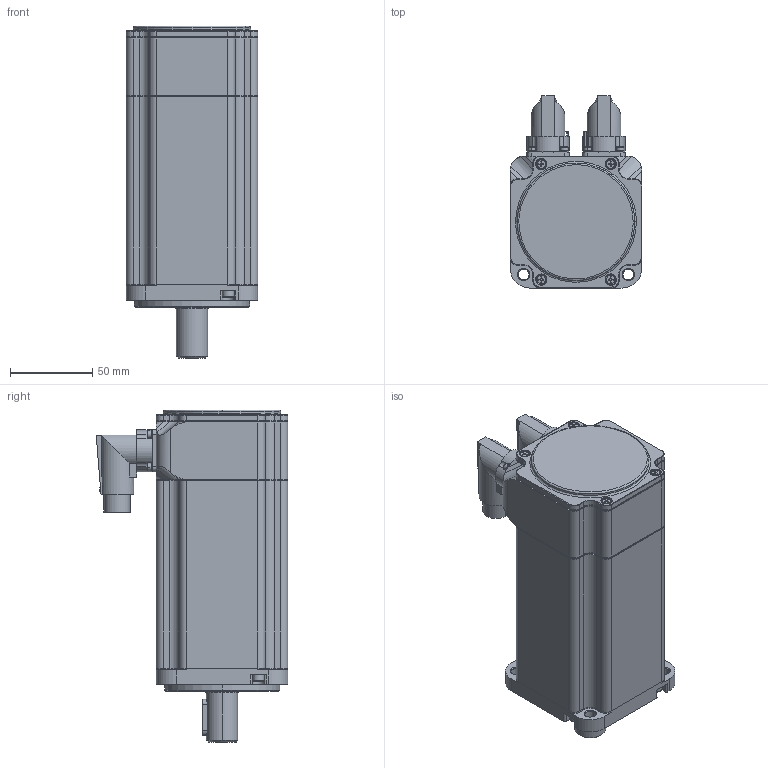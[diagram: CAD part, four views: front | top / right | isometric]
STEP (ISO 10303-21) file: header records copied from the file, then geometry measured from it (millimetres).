
FILE_DESCRIPTION (( 'STEP AP203' ), '1' );
FILE_NAME ('SMH80S-0100-30AAK-3LKM.STEP', '2017-09-22T03:19:08', ( 'IT毞諾' ), ( 'iTianKong.com' ), 'SwSTEP 2.0', 'SolidWorks 2008', '' );
FILE_SCHEMA (( 'CONFIG_CONTROL_DESIGN' ));
Length unit declared in the file: millimetre
Products named in the file (1): SMH80S-0100-30AAK-3LKM
Bounding box: 80 x 116.6 x 202 mm (x, y, z)
Surface area: 87856.8 mm2 (no closed solid volume)
Topology: 0 solids, 65 shells, 800 faces, 2404 edges, 1621 vertices
Faces by surface type: cylinder 350, plane 334, bspline 82, cone 34
Entity records: 29016 total; most frequent: CARTESIAN_POINT 7569, DIRECTION 4687, ORIENTED_EDGE 4065, EDGE_CURVE 2352, AXIS2_PLACEMENT_3D 1731, VERTEX_POINT 1621, VECTOR 1225, LINE 1225
